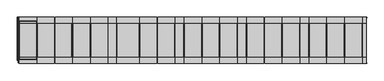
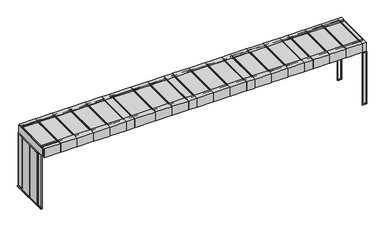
"""IFC4 building model written with IfcOpenShell, lengths in millimetres: proxy geometry, Hot_aisle1 : Hot_aisle1."""

from ifc_helpers import new_model, si_unit, frame, origin, place, context, project, spatial, polyline, outline, extrude, source, transform, mapped, element, save


def mechanical_equipment_dad1d5cb(model_context):
    return source(origin(), model_context, "Body", "SweptSolid", [
        extrude(outline(polyline([(6862.6371876, -467.8956882), (6744.3519296, -467.8956882), (6744.3519296, 791.2367945), (6862.6371876, 791.2367945), (6862.6371876, -467.8956882)])), frame((0.0, 0.0, 2329.0870533), z_axis=(0.0, 0.0, 1.0), x_axis=(1.0, 0.0, 0.0)), (0.0, 0.0, 1.0), 15.0),
        extrude(outline(polyline([(-513.1626828, 32.201371), (-306.2249589, 32.201371), (-306.2249589, 14.2941694), (631.7966527, 14.2941694), (631.7966527, 32.4107964), (942.151747, 32.4107964), (942.151747, 0.3306569), (-513.1626828, 0.3306569), (-513.1626828, 32.201371)])), frame((-4868.0857356, 0.0, 0.0), z_axis=(1.0, 0.0, 0.0), x_axis=(0.0, 1.0, 0.0)), (0.0, 0.0, 1.0), 64.5117599),
        extrude(outline(polyline([(-622.3826974, 2358.0870535), (-421.0012395, 2358.0870535), (-421.0012395, 2355.0870533), (-523.8309368, 2355.0870533), (-523.8309368, 2331.0870573), (-423.9920555, 2331.0870573), (-423.9920555, 2334.0870559), (-429.9736825, 2334.0870559), (-429.9736825, 2337.0870533), (-421.0012395, 2337.0870533), (-421.0012395, 2328.0870533), (-522.6589634, 2328.0870533), (-532.4432945, 2318.3027222), (-587.3826974, 2318.3027222), (-587.3826974, 2021.0610137), (-622.3826974, 2021.0610137), (-622.3826974, 2358.0870535)])), frame((-3603.5737426, 0.0, 0.0), z_axis=(1.0, 0.0, 0.0), x_axis=(0.0, 1.0, 0.0)), (0.0, 0.0, 1.0), 581.0683113),
        extrude(outline(polyline([(942.151747, 2358.0870535), (942.151747, 2021.0610137), (907.1517336, 2021.0610137), (907.1517336, 2318.3027222), (852.2123306, 2318.3027222), (842.4279996, 2328.0870533), (740.7702757, 2328.0870533), (740.7702757, 2337.0870533), (749.7427186, 2337.0870533), (749.7427186, 2334.0870559), (743.7610916, 2334.0870559), (743.7610916, 2331.0870573), (843.599973, 2331.0870573), (843.599973, 2355.0870533), (740.7702757, 2355.0870533), (740.7702757, 2358.0870535), (942.151747, 2358.0870535)])), frame((-3603.5737426, 0.0, 0.0), z_axis=(1.0, 0.0, 0.0), x_axis=(0.0, 1.0, 0.0)), (0.0, 0.0, 1.0), 581.0683113),
        extrude(outline(polyline([(-622.3826974, 2358.0870535), (-421.0012395, 2358.0870535), (-421.0012395, 2355.0870533), (-523.8309368, 2355.0870533), (-523.8309368, 2331.0870573), (-423.9920555, 2331.0870573), (-423.9920555, 2334.0870559), (-429.9736825, 2334.0870559), (-429.9736825, 2337.0870533), (-421.0012395, 2337.0870533), (-421.0012395, 2328.0870533), (-522.6589634, 2328.0870533), (-532.4432945, 2318.3027222), (-587.3826974, 2318.3027222), (-587.3826974, 2021.0610137), (-622.3826974, 2021.0610137), (-622.3826974, 2358.0870535)])), frame((-3003.5736713, 0.0, 0.0), z_axis=(1.0, 0.0, 0.0), x_axis=(0.0, 1.0, 0.0)), (0.0, 0.0, 1.0), 581.0683113),
        extrude(outline(polyline([(942.151747, 2358.0870535), (942.151747, 2021.0610137), (907.1517336, 2021.0610137), (907.1517336, 2318.3027222), (852.2123306, 2318.3027222), (842.4279996, 2328.0870533), (740.7702757, 2328.0870533), (740.7702757, 2337.0870533), (749.7427186, 2337.0870533), (749.7427186, 2334.0870559), (743.7610916, 2334.0870559), (743.7610916, 2331.0870573), (843.599973, 2331.0870573), (843.599973, 2355.0870533), (740.7702757, 2355.0870533), (740.7702757, 2358.0870535), (942.151747, 2358.0870535)])), frame((-3003.5736713, 0.0, 0.0), z_axis=(1.0, 0.0, 0.0), x_axis=(0.0, 1.0, 0.0)), (0.0, 0.0, 1.0), 581.0683113),
        extrude(outline(polyline([(-622.3826974, 2358.0870535), (-421.0012395, 2358.0870535), (-421.0012395, 2355.0870533), (-523.8309368, 2355.0870533), (-523.8309368, 2331.0870573), (-423.9920555, 2331.0870573), (-423.9920555, 2334.0870559), (-429.9736825, 2334.0870559), (-429.9736825, 2337.0870533), (-421.0012395, 2337.0870533), (-421.0012395, 2328.0870533), (-522.6589634, 2328.0870533), (-532.4432945, 2318.3027222), (-587.3826974, 2318.3027222), (-587.3826974, 2021.0610137), (-622.3826974, 2021.0610137), (-622.3826974, 2358.0870535)])), frame((-2403.5736667, 0.0, 0.0), z_axis=(1.0, 0.0, 0.0), x_axis=(0.0, 1.0, 0.0)), (0.0, 0.0, 1.0), 581.0683113),
        extrude(outline(polyline([(942.151747, 2358.0870535), (942.151747, 2021.0610137), (907.1517336, 2021.0610137), (907.1517336, 2318.3027222), (852.2123306, 2318.3027222), (842.4279996, 2328.0870533), (740.7702757, 2328.0870533), (740.7702757, 2337.0870533), (749.7427186, 2337.0870533), (749.7427186, 2334.0870559), (743.7610916, 2334.0870559), (743.7610916, 2331.0870573), (843.599973, 2331.0870573), (843.599973, 2355.0870533), (740.7702757, 2355.0870533), (740.7702757, 2358.0870535), (942.151747, 2358.0870535)])), frame((-2403.5736667, 0.0, 0.0), z_axis=(1.0, 0.0, 0.0), x_axis=(0.0, 1.0, 0.0)), (0.0, 0.0, 1.0), 581.0683113),
        extrude(outline(polyline([(-622.3826974, 2358.0870535), (-421.0012395, 2358.0870535), (-421.0012395, 2355.0870533), (-523.8309368, 2355.0870533), (-523.8309368, 2331.0870573), (-423.9920555, 2331.0870573), (-423.9920555, 2334.0870559), (-429.9736825, 2334.0870559), (-429.9736825, 2337.0870533), (-421.0012395, 2337.0870533), (-421.0012395, 2328.0870533), (-522.6589634, 2328.0870533), (-532.4432945, 2318.3027222), (-587.3826974, 2318.3027222), (-587.3826974, 2021.0610137), (-622.3826974, 2021.0610137), (-622.3826974, 2358.0870535)])), frame((-1520.5056136, 0.0, 0.0), z_axis=(1.0, 0.0, 0.0), x_axis=(0.0, 1.0, 0.0)), (0.0, 0.0, 1.0), 747.9999756),
        extrude(outline(polyline([(942.151747, 2358.0870535), (942.151747, 2021.0610137), (907.1517336, 2021.0610137), (907.1517336, 2318.3027222), (852.2123306, 2318.3027222), (842.4279996, 2328.0870533), (740.7702757, 2328.0870533), (740.7702757, 2337.0870533), (749.7427186, 2337.0870533), (749.7427186, 2334.0870559), (743.7610916, 2334.0870559), (743.7610916, 2331.0870573), (843.599973, 2331.0870573), (843.599973, 2355.0870533), (740.7702757, 2355.0870533), (740.7702757, 2358.0870535), (942.151747, 2358.0870535)])), frame((-1520.5056136, 0.0, 0.0), z_axis=(1.0, 0.0, 0.0), x_axis=(0.0, 1.0, 0.0)), (0.0, 0.0, 1.0), 747.9999756),
        extrude(outline(polyline([(-622.3826974, 2358.0870535), (-421.0012395, 2358.0870535), (-421.0012395, 2355.0870533), (-523.8309368, 2355.0870533), (-523.8309368, 2331.0870573), (-423.9920555, 2331.0870573), (-423.9920555, 2334.0870559), (-429.9736825, 2334.0870559), (-429.9736825, 2337.0870533), (-421.0012395, 2337.0870533), (-421.0012395, 2328.0870533), (-522.6589634, 2328.0870533), (-532.4432945, 2318.3027222), (-587.3826974, 2318.3027222), (-587.3826974, 2021.0610137), (-622.3826974, 2021.0610137), (-622.3826974, 2358.0870535)])), frame((-1820.5054775, 0.0, 0.0), z_axis=(1.0, 0.0, 0.0), x_axis=(0.0, 1.0, 0.0)), (0.0, 0.0, 1.0), 297.9998337),
        extrude(outline(polyline([(942.151747, 2358.0870535), (942.151747, 2021.0610137), (907.1517336, 2021.0610137), (907.1517336, 2318.3027222), (852.2123306, 2318.3027222), (842.4279996, 2328.0870533), (740.7702757, 2328.0870533), (740.7702757, 2337.0870533), (749.7427186, 2337.0870533), (749.7427186, 2334.0870559), (743.7610916, 2334.0870559), (743.7610916, 2331.0870573), (843.599973, 2331.0870573), (843.599973, 2355.0870533), (740.7702757, 2355.0870533), (740.7702757, 2358.0870535), (942.151747, 2358.0870535)])), frame((-1820.5054775, 0.0, 0.0), z_axis=(1.0, 0.0, 0.0), x_axis=(0.0, 1.0, 0.0)), (0.0, 0.0, 1.0), 297.9998337),
        extrude(outline(polyline([(-622.3826974, 2358.0870535), (-421.0012395, 2358.0870535), (-421.0012395, 2355.0870533), (-523.8309368, 2355.0870533), (-523.8309368, 2331.0870573), (-423.9920555, 2331.0870573), (-423.9920555, 2334.0870559), (-429.9736825, 2334.0870559), (-429.9736825, 2337.0870533), (-421.0012395, 2337.0870533), (-421.0012395, 2328.0870533), (-522.6589634, 2328.0870533), (-532.4432945, 2318.3027222), (-587.3826974, 2318.3027222), (-587.3826974, 2021.0610137), (-622.3826974, 2021.0610137), (-622.3826974, 2358.0870535)])), frame((-753.5737995, 0.0, 0.0), z_axis=(1.0, 0.0, 0.0), x_axis=(0.0, 1.0, 0.0)), (0.0, 0.0, 1.0), 581.0683113),
        extrude(outline(polyline([(942.151747, 2358.0870535), (942.151747, 2021.0610137), (907.1517336, 2021.0610137), (907.1517336, 2318.3027222), (852.2123306, 2318.3027222), (842.4279996, 2328.0870533), (740.7702757, 2328.0870533), (740.7702757, 2337.0870533), (749.7427186, 2337.0870533), (749.7427186, 2334.0870559), (743.7610916, 2334.0870559), (743.7610916, 2331.0870573), (843.599973, 2331.0870573), (843.599973, 2355.0870533), (740.7702757, 2355.0870533), (740.7702757, 2358.0870535), (942.151747, 2358.0870535)])), frame((-753.5737995, 0.0, 0.0), z_axis=(1.0, 0.0, 0.0), x_axis=(0.0, 1.0, 0.0)), (0.0, 0.0, 1.0), 581.0683113),
        extrude(outline(polyline([(-622.3826974, 2358.0870535), (-421.0012395, 2358.0870535), (-421.0012395, 2355.0870533), (-523.8309368, 2355.0870533), (-523.8309368, 2331.0870573), (-423.9920555, 2331.0870573), (-423.9920555, 2334.0870559), (-429.9736825, 2334.0870559), (-429.9736825, 2337.0870533), (-421.0012395, 2337.0870533), (-421.0012395, 2328.0870533), (-522.6589634, 2328.0870533), (-532.4432945, 2318.3027222), (-587.3826974, 2318.3027222), (-587.3826974, 2021.0610137), (-622.3826974, 2021.0610137), (-622.3826974, 2358.0870535)])), frame((-153.5737426, 0.0, 0.0), z_axis=(1.0, 0.0, 0.0), x_axis=(0.0, 1.0, 0.0)), (0.0, 0.0, 1.0), 581.0683113),
        extrude(outline(polyline([(942.151747, 2358.0870535), (942.151747, 2021.0610137), (907.1517336, 2021.0610137), (907.1517336, 2318.3027222), (852.2123306, 2318.3027222), (842.4279996, 2328.0870533), (740.7702757, 2328.0870533), (740.7702757, 2337.0870533), (749.7427186, 2337.0870533), (749.7427186, 2334.0870559), (743.7610916, 2334.0870559), (743.7610916, 2331.0870573), (843.599973, 2331.0870573), (843.599973, 2355.0870533), (740.7702757, 2355.0870533), (740.7702757, 2358.0870535), (942.151747, 2358.0870535)])), frame((-153.5737426, 0.0, 0.0), z_axis=(1.0, 0.0, 0.0), x_axis=(0.0, 1.0, 0.0)), (0.0, 0.0, 1.0), 581.0683113),
        extrude(outline(polyline([(-622.3826974, 2358.0870535), (-421.0012395, 2358.0870535), (-421.0012395, 2355.0870533), (-523.8309368, 2355.0870533), (-523.8309368, 2331.0870573), (-423.9920555, 2331.0870573), (-423.9920555, 2334.0870559), (-429.9736825, 2334.0870559), (-429.9736825, 2337.0870533), (-421.0012395, 2337.0870533), (-421.0012395, 2328.0870533), (-522.6589634, 2328.0870533), (-532.4432945, 2318.3027222), (-587.3826974, 2318.3027222), (-587.3826974, 2021.0610137), (-622.3826974, 2021.0610137), (-622.3826974, 2358.0870535)])), frame((429.4945225, 0.0, 0.0), z_axis=(1.0, 0.0, 0.0), x_axis=(0.0, 1.0, 0.0)), (0.0, 0.0, 1.0), 297.9998337),
        extrude(outline(polyline([(942.151747, 2358.0870535), (942.151747, 2021.0610137), (907.1517336, 2021.0610137), (907.1517336, 2318.3027222), (852.2123306, 2318.3027222), (842.4279996, 2328.0870533), (740.7702757, 2328.0870533), (740.7702757, 2337.0870533), (749.7427186, 2337.0870533), (749.7427186, 2334.0870559), (743.7610916, 2334.0870559), (743.7610916, 2331.0870573), (843.599973, 2331.0870573), (843.599973, 2355.0870533), (740.7702757, 2355.0870533), (740.7702757, 2358.0870535), (942.151747, 2358.0870535)])), frame((429.4945225, 0.0, 0.0), z_axis=(1.0, 0.0, 0.0), x_axis=(0.0, 1.0, 0.0)), (0.0, 0.0, 1.0), 297.9998337),
        extrude(outline(polyline([(-622.3826974, 2358.0870535), (-421.0012395, 2358.0870535), (-421.0012395, 2355.0870533), (-523.8309368, 2355.0870533), (-523.8309368, 2331.0870573), (-423.9920555, 2331.0870573), (-423.9920555, 2334.0870559), (-429.9736825, 2334.0870559), (-429.9736825, 2337.0870533), (-421.0012395, 2337.0870533), (-421.0012395, 2328.0870533), (-522.6589634, 2328.0870533), (-532.4432945, 2318.3027222), (-587.3826974, 2318.3027222), (-587.3826974, 2021.0610137), (-622.3826974, 2021.0610137), (-622.3826974, 2358.0870535)])), frame((746.4263333, 0.0, 0.0), z_axis=(1.0, 0.0, 0.0), x_axis=(0.0, 1.0, 0.0)), (0.0, 0.0, 1.0), 581.0683113),
        extrude(outline(polyline([(942.151747, 2358.0870535), (942.151747, 2021.0610137), (907.1517336, 2021.0610137), (907.1517336, 2318.3027222), (852.2123306, 2318.3027222), (842.4279996, 2328.0870533), (740.7702757, 2328.0870533), (740.7702757, 2337.0870533), (749.7427186, 2337.0870533), (749.7427186, 2334.0870559), (743.7610916, 2334.0870559), (743.7610916, 2331.0870573), (843.599973, 2331.0870573), (843.599973, 2355.0870533), (740.7702757, 2355.0870533), (740.7702757, 2358.0870535), (942.151747, 2358.0870535)])), frame((746.4263333, 0.0, 0.0), z_axis=(1.0, 0.0, 0.0), x_axis=(0.0, 1.0, 0.0)), (0.0, 0.0, 1.0), 581.0683113),
        extrude(outline(polyline([(-622.3826974, 2358.0870535), (-421.0012395, 2358.0870535), (-421.0012395, 2355.0870533), (-523.8309368, 2355.0870533), (-523.8309368, 2331.0870573), (-423.9920555, 2331.0870573), (-423.9920555, 2334.0870559), (-429.9736825, 2334.0870559), (-429.9736825, 2337.0870533), (-421.0012395, 2337.0870533), (-421.0012395, 2328.0870533), (-522.6589634, 2328.0870533), (-532.4432945, 2318.3027222), (-587.3826974, 2318.3027222), (-587.3826974, 2021.0610137), (-622.3826974, 2021.0610137), (-622.3826974, 2358.0870535)])), frame((1346.4263333, 0.0, 0.0), z_axis=(1.0, 0.0, 0.0), x_axis=(0.0, 1.0, 0.0)), (0.0, 0.0, 1.0), 581.0683113),
        extrude(outline(polyline([(942.151747, 2358.0870535), (942.151747, 2021.0610137), (907.1517336, 2021.0610137), (907.1517336, 2318.3027222), (852.2123306, 2318.3027222), (842.4279996, 2328.0870533), (740.7702757, 2328.0870533), (740.7702757, 2337.0870533), (749.7427186, 2337.0870533), (749.7427186, 2334.0870559), (743.7610916, 2334.0870559), (743.7610916, 2331.0870573), (843.599973, 2331.0870573), (843.599973, 2355.0870533), (740.7702757, 2355.0870533), (740.7702757, 2358.0870535), (942.151747, 2358.0870535)])), frame((1346.4263333, 0.0, 0.0), z_axis=(1.0, 0.0, 0.0), x_axis=(0.0, 1.0, 0.0)), (0.0, 0.0, 1.0), 581.0683113),
        extrude(outline(polyline([(-622.3826974, 2358.0870535), (-421.0012395, 2358.0870535), (-421.0012395, 2355.0870533), (-523.8309368, 2355.0870533), (-523.8309368, 2331.0870573), (-423.9920555, 2331.0870573), (-423.9920555, 2334.0870559), (-429.9736825, 2334.0870559), (-429.9736825, 2337.0870533), (-421.0012395, 2337.0870533), (-421.0012395, 2328.0870533), (-522.6589634, 2328.0870533), (-532.4432945, 2318.3027222), (-587.3826974, 2318.3027222), (-587.3826974, 2021.0610137), (-622.3826974, 2021.0610137), (-622.3826974, 2358.0870535)])), frame((1946.4263014, 0.0, 0.0), z_axis=(1.0, 0.0, 0.0), x_axis=(0.0, 1.0, 0.0)), (0.0, 0.0, 1.0), 581.0683113),
        extrude(outline(polyline([(942.151747, 2358.0870535), (942.151747, 2021.0610137), (907.1517336, 2021.0610137), (907.1517336, 2318.3027222), (852.2123306, 2318.3027222), (842.4279996, 2328.0870533), (740.7702757, 2328.0870533), (740.7702757, 2337.0870533), (749.7427186, 2337.0870533), (749.7427186, 2334.0870559), (743.7610916, 2334.0870559), (743.7610916, 2331.0870573), (843.599973, 2331.0870573), (843.599973, 2355.0870533), (740.7702757, 2355.0870533), (740.7702757, 2358.0870535), (942.151747, 2358.0870535)])), frame((1946.4263014, 0.0, 0.0), z_axis=(1.0, 0.0, 0.0), x_axis=(0.0, 1.0, 0.0)), (0.0, 0.0, 1.0), 581.0683113),
        extrude(outline(polyline([(-622.3826974, 2358.0870535), (-421.0012395, 2358.0870535), (-421.0012395, 2355.0870533), (-523.8309368, 2355.0870533), (-523.8309368, 2331.0870573), (-423.9920555, 2331.0870573), (-423.9920555, 2334.0870559), (-429.9736825, 2334.0870559), (-429.9736825, 2337.0870533), (-421.0012395, 2337.0870533), (-421.0012395, 2328.0870533), (-522.6589634, 2328.0870533), (-532.4432945, 2318.3027222), (-587.3826974, 2318.3027222), (-587.3826974, 2021.0610137), (-622.3826974, 2021.0610137), (-622.3826974, 2358.0870535)])), frame((2529.4945465, 0.0, 0.0), z_axis=(1.0, 0.0, 0.0), x_axis=(0.0, 1.0, 0.0)), (0.0, 0.0, 1.0), 297.9998337),
        extrude(outline(polyline([(942.151747, 2358.0870535), (942.151747, 2021.0610137), (907.1517336, 2021.0610137), (907.1517336, 2318.3027222), (852.2123306, 2318.3027222), (842.4279996, 2328.0870533), (740.7702757, 2328.0870533), (740.7702757, 2337.0870533), (749.7427186, 2337.0870533), (749.7427186, 2334.0870559), (743.7610916, 2334.0870559), (743.7610916, 2331.0870573), (843.599973, 2331.0870573), (843.599973, 2355.0870533), (740.7702757, 2355.0870533), (740.7702757, 2358.0870535), (942.151747, 2358.0870535)])), frame((2529.4945465, 0.0, 0.0), z_axis=(1.0, 0.0, 0.0), x_axis=(0.0, 1.0, 0.0)), (0.0, 0.0, 1.0), 297.9998337),
        extrude(outline(polyline([(-622.3826974, 2358.0870535), (-421.0012395, 2358.0870535), (-421.0012395, 2355.0870533), (-523.8309368, 2355.0870533), (-523.8309368, 2331.0870573), (-423.9920555, 2331.0870573), (-423.9920555, 2334.0870559), (-429.9736825, 2334.0870559), (-429.9736825, 2337.0870533), (-421.0012395, 2337.0870533), (-421.0012395, 2328.0870533), (-522.6589634, 2328.0870533), (-532.4432945, 2318.3027222), (-587.3826974, 2318.3027222), (-587.3826974, 2021.0610137), (-622.3826974, 2021.0610137), (-622.3826974, 2358.0870535)])), frame((2846.4262721, 0.0, 0.0), z_axis=(1.0, 0.0, 0.0), x_axis=(0.0, 1.0, 0.0)), (0.0, 0.0, 1.0), 581.0683113),
        extrude(outline(polyline([(942.151747, 2358.0870535), (942.151747, 2021.0610137), (907.1517336, 2021.0610137), (907.1517336, 2318.3027222), (852.2123306, 2318.3027222), (842.4279996, 2328.0870533), (740.7702757, 2328.0870533), (740.7702757, 2337.0870533), (749.7427186, 2337.0870533), (749.7427186, 2334.0870559), (743.7610916, 2334.0870559), (743.7610916, 2331.0870573), (843.599973, 2331.0870573), (843.599973, 2355.0870533), (740.7702757, 2355.0870533), (740.7702757, 2358.0870535), (942.151747, 2358.0870535)])), frame((2846.4262721, 0.0, 0.0), z_axis=(1.0, 0.0, 0.0), x_axis=(0.0, 1.0, 0.0)), (0.0, 0.0, 1.0), 581.0683113),
        extrude(outline(polyline([(-622.3826974, 2358.0870535), (-421.0012395, 2358.0870535), (-421.0012395, 2355.0870533), (-523.8309368, 2355.0870533), (-523.8309368, 2331.0870573), (-423.9920555, 2331.0870573), (-423.9920555, 2334.0870559), (-429.9736825, 2334.0870559), (-429.9736825, 2337.0870533), (-421.0012395, 2337.0870533), (-421.0012395, 2328.0870533), (-522.6589634, 2328.0870533), (-532.4432945, 2318.3027222), (-587.3826974, 2318.3027222), (-587.3826974, 2021.0610137), (-622.3826974, 2021.0610137), (-622.3826974, 2358.0870535)])), frame((-4203.5736804, 0.0, 0.0), z_axis=(1.0, 0.0, 0.0), x_axis=(0.0, 1.0, 0.0)), (0.0, 0.0, 1.0), 581.0683113),
        extrude(outline(polyline([(942.151747, 2358.0870535), (942.151747, 2021.0610137), (907.1517336, 2021.0610137), (907.1517336, 2318.3027222), (852.2123306, 2318.3027222), (842.4279996, 2328.0870533), (740.7702757, 2328.0870533), (740.7702757, 2337.0870533), (749.7427186, 2337.0870533), (749.7427186, 2334.0870559), (743.7610916, 2334.0870559), (743.7610916, 2331.0870573), (843.599973, 2331.0870573), (843.599973, 2355.0870533), (740.7702757, 2355.0870533), (740.7702757, 2358.0870535), (942.151747, 2358.0870535)])), frame((-4203.5736804, 0.0, 0.0), z_axis=(1.0, 0.0, 0.0), x_axis=(0.0, 1.0, 0.0)), (0.0, 0.0, 1.0), 581.0683113),
        extrude(outline(polyline([(-622.3826974, 2358.0870535), (-421.0012395, 2358.0870535), (-421.0012395, 2355.0870533), (-523.8309368, 2355.0870533), (-523.8309368, 2331.0870573), (-423.9920555, 2331.0870573), (-423.9920555, 2334.0870559), (-429.9736825, 2334.0870559), (-429.9736825, 2337.0870533), (-421.0012395, 2337.0870533), (-421.0012395, 2328.0870533), (-522.6589634, 2328.0870533), (-532.4432945, 2318.3027222), (-587.3826974, 2318.3027222), (-587.3826974, 2021.0610137), (-622.3826974, 2021.0610137), (-622.3826974, 2358.0870535)])), frame((3446.4263014, 0.0, 0.0), z_axis=(1.0, 0.0, 0.0), x_axis=(0.0, 1.0, 0.0)), (0.0, 0.0, 1.0), 581.0683113),
        extrude(outline(polyline([(942.151747, 2358.0870535), (942.151747, 2021.0610137), (907.1517336, 2021.0610137), (907.1517336, 2318.3027222), (852.2123306, 2318.3027222), (842.4279996, 2328.0870533), (740.7702757, 2328.0870533), (740.7702757, 2337.0870533), (749.7427186, 2337.0870533), (749.7427186, 2334.0870559), (743.7610916, 2334.0870559), (743.7610916, 2331.0870573), (843.599973, 2331.0870573), (843.599973, 2355.0870533), (740.7702757, 2355.0870533), (740.7702757, 2358.0870535), (942.151747, 2358.0870535)])), frame((3446.4263014, 0.0, 0.0), z_axis=(1.0, 0.0, 0.0), x_axis=(0.0, 1.0, 0.0)), (0.0, 0.0, 1.0), 581.0683113),
        extrude(outline(polyline([(-622.3826974, 2358.0870535), (-421.0012395, 2358.0870535), (-421.0012395, 2355.0870533), (-523.8309368, 2355.0870533), (-523.8309368, 2331.0870573), (-423.9920555, 2331.0870573), (-423.9920555, 2334.0870559), (-429.9736825, 2334.0870559), (-429.9736825, 2337.0870533), (-421.0012395, 2337.0870533), (-421.0012395, 2328.0870533), (-522.6589634, 2328.0870533), (-532.4432945, 2318.3027222), (-587.3826974, 2318.3027222), (-587.3826974, 2021.0610137), (-622.3826974, 2021.0610137), (-622.3826974, 2358.0870535)])), frame((4046.4263262, 0.0, 0.0), z_axis=(1.0, 0.0, 0.0), x_axis=(0.0, 1.0, 0.0)), (0.0, 0.0, 1.0), 581.0683113),
        extrude(outline(polyline([(942.151747, 2358.0870535), (942.151747, 2021.0610137), (907.1517336, 2021.0610137), (907.1517336, 2318.3027222), (852.2123306, 2318.3027222), (842.4279996, 2328.0870533), (740.7702757, 2328.0870533), (740.7702757, 2337.0870533), (749.7427186, 2337.0870533), (749.7427186, 2334.0870559), (743.7610916, 2334.0870559), (743.7610916, 2331.0870573), (843.599973, 2331.0870573), (843.599973, 2355.0870533), (740.7702757, 2355.0870533), (740.7702757, 2358.0870535), (942.151747, 2358.0870535)])), frame((4046.4263262, 0.0, 0.0), z_axis=(1.0, 0.0, 0.0), x_axis=(0.0, 1.0, 0.0)), (0.0, 0.0, 1.0), 581.0683113),
        extrude(outline(polyline([(-622.3826974, 2358.0870535), (-421.0012395, 2358.0870535), (-421.0012395, 2355.0870533), (-523.8309368, 2355.0870533), (-523.8309368, 2331.0870573), (-423.9920555, 2331.0870573), (-423.9920555, 2334.0870559), (-429.9736825, 2334.0870559), (-429.9736825, 2337.0870533), (-421.0012395, 2337.0870533), (-421.0012395, 2328.0870533), (-522.6589634, 2328.0870533), (-532.4432945, 2318.3027222), (-587.3826974, 2318.3027222), (-587.3826974, 2021.0610137), (-622.3826974, 2021.0610137), (-622.3826974, 2358.0870535)])), frame((4946.4262587, 0.0, 0.0), z_axis=(1.0, 0.0, 0.0), x_axis=(0.0, 1.0, 0.0)), (0.0, 0.0, 1.0), 581.0683113),
        extrude(outline(polyline([(942.151747, 2358.0870535), (942.151747, 2021.0610137), (907.1517336, 2021.0610137), (907.1517336, 2318.3027222), (852.2123306, 2318.3027222), (842.4279996, 2328.0870533), (740.7702757, 2328.0870533), (740.7702757, 2337.0870533), (749.7427186, 2337.0870533), (749.7427186, 2334.0870559), (743.7610916, 2334.0870559), (743.7610916, 2331.0870573), (843.599973, 2331.0870573), (843.599973, 2355.0870533), (740.7702757, 2355.0870533), (740.7702757, 2358.0870535), (942.151747, 2358.0870535)])), frame((4946.4262587, 0.0, 0.0), z_axis=(1.0, 0.0, 0.0), x_axis=(0.0, 1.0, 0.0)), (0.0, 0.0, 1.0), 581.0683113),
        extrude(outline(polyline([(-622.3826974, 2358.0870535), (-421.0012395, 2358.0870535), (-421.0012395, 2355.0870533), (-523.8309368, 2355.0870533), (-523.8309368, 2331.0870573), (-423.9920555, 2331.0870573), (-423.9920555, 2334.0870559), (-429.9736825, 2334.0870559), (-429.9736825, 2337.0870533), (-421.0012395, 2337.0870533), (-421.0012395, 2328.0870533), (-522.6589634, 2328.0870533), (-532.4432945, 2318.3027222), (-587.3826974, 2318.3027222), (-587.3826974, 2021.0610137), (-622.3826974, 2021.0610137), (-622.3826974, 2358.0870535)])), frame((4629.4945626, 0.0, 0.0), z_axis=(1.0, 0.0, 0.0), x_axis=(0.0, 1.0, 0.0)), (0.0, 0.0, 1.0), 297.9998337),
        extrude(outline(polyline([(942.151747, 2358.0870535), (942.151747, 2021.0610137), (907.1517336, 2021.0610137), (907.1517336, 2318.3027222), (852.2123306, 2318.3027222), (842.4279996, 2328.0870533), (740.7702757, 2328.0870533), (740.7702757, 2337.0870533), (749.7427186, 2337.0870533), (749.7427186, 2334.0870559), (743.7610916, 2334.0870559), (743.7610916, 2331.0870573), (843.599973, 2331.0870573), (843.599973, 2355.0870533), (740.7702757, 2355.0870533), (740.7702757, 2358.0870535), (942.151747, 2358.0870535)])), frame((4629.4945626, 0.0, 0.0), z_axis=(1.0, 0.0, 0.0), x_axis=(0.0, 1.0, 0.0)), (0.0, 0.0, 1.0), 297.9998337),
        extrude(outline(polyline([(4912.6373089, -467.8956882), (4644.3519296, -467.8956882), (4644.3519296, 791.2367945), (4912.6373089, 791.2367945), (4912.6373089, -467.8956882)])), frame((0.0, 0.0, 2329.0870533), z_axis=(0.0, 0.0, 1.0), x_axis=(1.0, 0.0, 0.0)), (0.0, 0.0, 1.0), 15.0),
        extrude(outline(polyline([(2812.6372929, -467.8956882), (2544.3519135, -467.8956882), (2544.3519135, 791.2367945), (2812.6372929, 791.2367945), (2812.6372929, -467.8956882)])), frame((0.0, 0.0, 2329.0870533), z_axis=(0.0, 0.0, 1.0), x_axis=(1.0, 0.0, 0.0)), (0.0, 0.0, 1.0), 15.0),
        extrude(outline(polyline([(712.6372689, -467.8956882), (444.3518895, -467.8956882), (444.3518895, 791.2367945), (712.6372689, 791.2367945), (712.6372689, -467.8956882)])), frame((0.0, 0.0, 2329.0870533), z_axis=(0.0, 0.0, 1.0), x_axis=(1.0, 0.0, 0.0)), (0.0, 0.0, 1.0), 15.0),
        extrude(outline(polyline([(-1537.3627311, -467.8956882), (-1805.6481105, -467.8956882), (-1805.6481105, 791.2367945), (-1537.3627311, 791.2367945), (-1537.3627311, -467.8956882)])), frame((0.0, 0.0, 2329.0870533), z_axis=(0.0, 0.0, 1.0), x_axis=(1.0, 0.0, 0.0)), (0.0, 0.0, 1.0), 15.0),
        extrude(outline(polyline([(-787.3627254, -467.8956882), (-1505.6482466, -467.8956882), (-1505.6482466, 791.2367945), (-787.3627254, 791.2367945), (-787.3627254, -467.8956882)])), frame((0.0, 0.0, 2329.0870533), z_axis=(0.0, 0.0, 1.0), x_axis=(1.0, 0.0, 0.0)), (0.0, 0.0, 1.0), 15.0),
        extrude(outline(polyline([(6712.6376326, -467.8956882), (6161.2836303, -467.8956882), (6161.2836303, 791.2367945), (6712.6376326, 791.2367945), (6712.6376326, -467.8956882)])), frame((0.0, 0.0, 2329.0870533), z_axis=(0.0, 0.0, 1.0), x_axis=(1.0, 0.0, 0.0)), (0.0, 0.0, 1.0), 15.0),
        extrude(outline(polyline([(6112.6376326, -467.8956882), (5561.2836303, -467.8956882), (5561.2836303, 791.2367945), (6112.6376326, 791.2367945), (6112.6376326, -467.8956882)])), frame((0.0, 0.0, 2329.0870533), z_axis=(0.0, 0.0, 1.0), x_axis=(1.0, 0.0, 0.0)), (0.0, 0.0, 1.0), 15.0),
        extrude(outline(polyline([(5512.637628, -467.8956882), (4961.2836257, -467.8956882), (4961.2836257, 791.2367945), (5512.637628, 791.2367945), (5512.637628, -467.8956882)])), frame((0.0, 0.0, 2329.0870533), z_axis=(0.0, 0.0, 1.0), x_axis=(1.0, 0.0, 0.0)), (0.0, 0.0, 1.0), 15.0),
        extrude(outline(polyline([(4612.6376956, -467.8956882), (4061.2836932, -467.8956882), (4061.2836932, 791.2367945), (4612.6376956, 791.2367945), (4612.6376956, -467.8956882)])), frame((0.0, 0.0, 2329.0870533), z_axis=(0.0, 0.0, 1.0), x_axis=(1.0, 0.0, 0.0)), (0.0, 0.0, 1.0), 15.0),
        extrude(outline(polyline([(4012.6376708, -467.8956882), (3461.2836684, -467.8956882), (3461.2836684, 791.2367945), (4012.6376708, 791.2367945), (4012.6376708, -467.8956882)])), frame((0.0, 0.0, 2329.0870533), z_axis=(0.0, 0.0, 1.0), x_axis=(1.0, 0.0, 0.0)), (0.0, 0.0, 1.0), 15.0),
        extrude(outline(polyline([(3412.6376414, -467.8956882), (2861.2836391, -467.8956882), (2861.2836391, 791.2367945), (3412.6376414, 791.2367945), (3412.6376414, -467.8956882)])), frame((0.0, 0.0, 2329.0870533), z_axis=(0.0, 0.0, 1.0), x_axis=(1.0, 0.0, 0.0)), (0.0, 0.0, 1.0), 15.0),
        extrude(outline(polyline([(2512.6376708, -467.8956882), (1961.2836684, -467.8956882), (1961.2836684, 791.2367945), (2512.6376708, 791.2367945), (2512.6376708, -467.8956882)])), frame((0.0, 0.0, 2329.0870533), z_axis=(0.0, 0.0, 1.0), x_axis=(1.0, 0.0, 0.0)), (0.0, 0.0, 1.0), 15.0),
        extrude(outline(polyline([(1912.6377026, -467.8956882), (1361.2837003, -467.8956882), (1361.2837003, 791.2367945), (1912.6377026, 791.2367945), (1912.6377026, -467.8956882)])), frame((0.0, 0.0, 2329.0870533), z_axis=(0.0, 0.0, 1.0), x_axis=(1.0, 0.0, 0.0)), (0.0, 0.0, 1.0), 15.0),
        extrude(outline(polyline([(1312.6377026, -467.8956882), (761.2837003, -467.8956882), (761.2837003, 791.2367945), (1312.6377026, 791.2367945), (1312.6377026, -467.8956882)])), frame((0.0, 0.0, 2329.0870533), z_axis=(0.0, 0.0, 1.0), x_axis=(1.0, 0.0, 0.0)), (0.0, 0.0, 1.0), 15.0),
        extrude(outline(polyline([(412.6376267, -467.8956882), (-138.7162793, -467.8956882), (-138.7162793, 791.2367945), (412.6376267, 791.2367945), (412.6376267, -467.8956882)])), frame((0.0, 0.0, 2329.0870533), z_axis=(0.0, 0.0, 1.0), x_axis=(1.0, 0.0, 0.0)), (0.0, 0.0, 1.0), 15.0),
        extrude(outline(polyline([(-187.3624301, -467.8956882), (-738.7164325, -467.8956882), (-738.7164325, 791.2367945), (-187.3624301, 791.2367945), (-187.3624301, -467.8956882)])), frame((0.0, 0.0, 2329.0870533), z_axis=(0.0, 0.0, 1.0), x_axis=(1.0, 0.0, 0.0)), (0.0, 0.0, 1.0), 15.0),
        extrude(outline(polyline([(-1837.3622974, -467.8956882), (-2388.7162997, -467.8956882), (-2388.7162997, 791.2367945), (-1837.3622974, 791.2367945), (-1837.3622974, -467.8956882)])), frame((0.0, 0.0, 2329.0870533), z_axis=(0.0, 0.0, 1.0), x_axis=(1.0, 0.0, 0.0)), (0.0, 0.0, 1.0), 15.0),
        extrude(outline(polyline([(-2437.362302, -467.8956882), (-3037.3623733, -467.8956882), (-3037.3623733, 791.2367945), (-2437.362302, 791.2367945), (-2437.362302, -467.8956882)])), frame((0.0, 0.0, 2329.0870533), z_axis=(0.0, 0.0, 1.0), x_axis=(1.0, 0.0, 0.0)), (0.0, 0.0, 1.0), 15.0),
        extrude(outline(polyline([(-3037.3623733, -467.8956882), (-3588.7163756, -467.8956882), (-3588.7163756, 791.2367945), (-3037.3623733, 791.2367945), (-3037.3623733, -467.8956882)])), frame((0.0, 0.0, 2329.0870533), z_axis=(0.0, 0.0, 1.0), x_axis=(1.0, 0.0, 0.0)), (0.0, 0.0, 1.0), 15.0),
        extrude(outline(polyline([(-3637.3623111, -467.8956882), (-4188.7163135, -467.8956882), (-4188.7163135, 791.2367945), (-3637.3623111, 791.2367945), (-3637.3623111, -467.8956882)])), frame((0.0, 0.0, 2329.0870533), z_axis=(0.0, 0.0, 1.0), x_axis=(1.0, 0.0, 0.0)), (0.0, 0.0, 1.0), 15.0),
        extrude(outline(polyline([(-622.3826974, 2358.0870535), (-421.0012395, 2358.0870535), (-421.0012395, 2355.0870533), (-523.8309368, 2355.0870533), (-523.8309368, 2331.0870573), (-423.9920555, 2331.0870573), (-423.9920555, 2334.0870559), (-429.9736825, 2334.0870559), (-429.9736825, 2337.0870533), (-421.0012395, 2337.0870533), (-421.0012395, 2328.0870533), (-522.6589634, 2328.0870533), (-532.4432945, 2318.3027222), (-587.3826974, 2318.3027222), (-587.3826974, 2021.0610137), (-622.3826974, 2021.0610137), (-622.3826974, 2358.0870535)])), frame((5546.4262633, 0.0, 0.0), z_axis=(1.0, 0.0, 0.0), x_axis=(0.0, 1.0, 0.0)), (0.0, 0.0, 1.0), 581.0683113),
        extrude(outline(polyline([(942.151747, 2358.0870535), (942.151747, 2021.0610137), (907.1517336, 2021.0610137), (907.1517336, 2318.3027222), (852.2123306, 2318.3027222), (842.4279996, 2328.0870533), (740.7702757, 2328.0870533), (740.7702757, 2337.0870533), (749.7427186, 2337.0870533), (749.7427186, 2334.0870559), (743.7610916, 2334.0870559), (743.7610916, 2331.0870573), (843.599973, 2331.0870573), (843.599973, 2355.0870533), (740.7702757, 2355.0870533), (740.7702757, 2358.0870535), (942.151747, 2358.0870535)])), frame((5546.4262633, 0.0, 0.0), z_axis=(1.0, 0.0, 0.0), x_axis=(0.0, 1.0, 0.0)), (0.0, 0.0, 1.0), 581.0683113),
        extrude(outline(polyline([(-622.3826974, 2358.0870535), (-421.0012395, 2358.0870535), (-421.0012395, 2355.0870533), (-523.8309368, 2355.0870533), (-523.8309368, 2331.0870573), (-423.9920555, 2331.0870573), (-423.9920555, 2334.0870559), (-429.9736825, 2334.0870559), (-429.9736825, 2337.0870533), (-421.0012395, 2337.0870533), (-421.0012395, 2328.0870533), (-522.6589634, 2328.0870533), (-532.4432945, 2318.3027222), (-587.3826974, 2318.3027222), (-587.3826974, 2021.0610137), (-622.3826974, 2021.0610137), (-622.3826974, 2358.0870535)])), frame((6144.3513798, 0.0, 0.0), z_axis=(1.0, 0.0, 0.0), x_axis=(0.0, 1.0, 0.0)), (0.0, 0.0, 1.0), 583.142894),
        extrude(outline(polyline([(942.1517336, 2358.0870535), (942.1517336, 2021.0610137), (907.1517336, 2021.0610137), (907.1517336, 2318.3027222), (852.2123306, 2318.3027222), (842.4279996, 2328.0870533), (740.7702757, 2328.0870533), (740.7702757, 2337.0870533), (749.7427186, 2337.0870533), (749.7427186, 2334.0870559), (743.7610916, 2334.0870559), (743.7610916, 2331.0870573), (843.599973, 2331.0870573), (843.599973, 2355.0870533), (740.7702757, 2355.0870533), (740.7702757, 2358.0870535), (942.1517336, 2358.0870535)])), frame((6146.4262532, 0.0, 0.0), z_axis=(1.0, 0.0, 0.0), x_axis=(0.0, 1.0, 0.0)), (0.0, 0.0, 1.0), 581.0680206),
        extrude(outline(polyline([(-622.3826974, 2358.0870535), (-421.0012395, 2358.0870535), (-421.0012395, 2355.0870533), (-523.8309368, 2355.0870533), (-523.8309368, 2331.0870573), (-423.9920555, 2331.0870573), (-423.9920555, 2334.0870559), (-429.9736825, 2334.0870559), (-429.9736825, 2337.0870533), (-421.0012395, 2337.0870533), (-421.0012395, 2328.0870533), (-522.6589634, 2328.0870533), (-532.4432945, 2318.3027222), (-587.3826974, 2318.3027222), (-587.3826974, 2021.0610137), (-622.3826974, 2021.0610137), (-622.3826974, 2358.0870535)])), frame((6729.4945626, 0.0, 0.0), z_axis=(1.0, 0.0, 0.0), x_axis=(0.0, 1.0, 0.0)), (0.0, 0.0, 1.0), 147.9998577),
        extrude(outline(polyline([(942.151747, 2358.0870535), (942.151747, 2021.0610137), (907.151747, 2021.0610137), (907.151747, 2318.3027222), (852.2123441, 2318.3027222), (842.428013, 2328.0870533), (740.7702891, 2328.0870533), (740.7702891, 2337.0870533), (749.7427321, 2337.0870533), (749.7427321, 2334.0870559), (743.7611051, 2334.0870559), (743.7611051, 2331.0870573), (843.5999864, 2331.0870573), (843.5999864, 2355.0870533), (740.7702891, 2355.0870533), (740.7702891, 2358.0870535), (942.151747, 2358.0870535)])), frame((6729.4945626, 0.0, 0.0), z_axis=(1.0, 0.0, 0.0), x_axis=(0.0, 1.0, 0.0)), (0.0, 0.0, 1.0), 147.9998577),
        extrude(outline(polyline([(6877.4944203, 811.1755429), (6877.4944203, -487.8344421), (6729.4945626, -487.8344421), (6729.4945626, 811.1755429), (6877.4944203, 811.1755429)]), holes=[polyline([(6862.6371876, 791.2367863), (6744.3519296, 791.2367863), (6744.3519296, -467.8956882), (6862.6371876, -467.8956882), (6862.6371876, 791.2367863)])]), frame((0.0, 0.0, 2312.1870572), z_axis=(0.0, 0.0, 1.0), x_axis=(1.0, 0.0, 0.0)), (0.0, 0.0, 1.0), 45.8999963),
        extrude(outline(polyline([(6727.4945746, 811.1755429), (6727.4945746, -487.8344421), (6146.4262633, -487.8344421), (6146.4262633, 811.1755429), (6727.4945746, 811.1755429)]), holes=[polyline([(6712.6376326, 791.2367863), (6161.2836303, 791.2367863), (6161.2836303, -467.8956882), (6712.6376326, -467.8956882), (6712.6376326, 791.2367863)])]), frame((0.0, 0.0, 2312.1870572), z_axis=(0.0, 0.0, 1.0), x_axis=(1.0, 0.0, 0.0)), (0.0, 0.0, 1.0), 45.8999963),
        extrude(outline(polyline([(6127.4945746, 811.1755429), (6127.4945746, -487.8344421), (5546.4262633, -487.8344421), (5546.4262633, 811.1755429), (6127.4945746, 811.1755429)]), holes=[polyline([(6112.6376326, 791.2367863), (5561.2836303, 791.2367863), (5561.2836303, -467.8956882), (6112.6376326, -467.8956882), (6112.6376326, 791.2367863)])]), frame((0.0, 0.0, 2312.1870572), z_axis=(0.0, 0.0, 1.0), x_axis=(1.0, 0.0, 0.0)), (0.0, 0.0, 1.0), 45.8999963),
        extrude(outline(polyline([(5527.49457, 811.1755429), (5527.49457, -487.8344421), (4946.4262587, -487.8344421), (4946.4262587, 811.1755429), (5527.49457, 811.1755429)]), holes=[polyline([(5512.637628, 791.2367863), (4961.2836257, 791.2367863), (4961.2836257, -467.8956882), (5512.637628, -467.8956882), (5512.637628, 791.2367863)])]), frame((0.0, 0.0, 2312.1870572), z_axis=(0.0, 0.0, 1.0), x_axis=(1.0, 0.0, 0.0)), (0.0, 0.0, 1.0), 45.8999963),
        extrude(outline(polyline([(4927.4943962, 811.1755429), (4927.4943962, -487.8344421), (4629.4945626, -487.8344421), (4629.4945626, 811.1755429), (4927.4943962, 811.1755429)]), holes=[polyline([(4912.6373089, 791.2367863), (4644.3519296, 791.2367863), (4644.3519296, -467.8956882), (4912.6373089, -467.8956882), (4912.6373089, 791.2367863)])]), frame((0.0, 0.0, 2312.1870572), z_axis=(0.0, 0.0, 1.0), x_axis=(1.0, 0.0, 0.0)), (0.0, 0.0, 1.0), 45.8999963),
        extrude(outline(polyline([(4627.4946375, 811.1755429), (4627.4946375, -487.8344421), (4046.4263262, -487.8344421), (4046.4263262, 811.1755429), (4627.4946375, 811.1755429)]), holes=[polyline([(4612.6376956, 791.2367863), (4061.2836932, 791.2367863), (4061.2836932, -467.8956882), (4612.6376956, -467.8956882), (4612.6376956, 791.2367863)])]), frame((0.0, 0.0, 2312.1870572), z_axis=(0.0, 0.0, 1.0), x_axis=(1.0, 0.0, 0.0)), (0.0, 0.0, 1.0), 45.8999963),
        extrude(outline(polyline([(4027.4946127, 811.1755429), (4027.4946127, -487.8344421), (3446.4263014, -487.8344421), (3446.4263014, 811.1755429), (4027.4946127, 811.1755429)]), holes=[polyline([(4012.6376708, 791.2367863), (3461.2836684, 791.2367863), (3461.2836684, -467.8956882), (4012.6376708, -467.8956882), (4012.6376708, 791.2367863)])]), frame((0.0, 0.0, 2312.1870572), z_axis=(0.0, 0.0, 1.0), x_axis=(1.0, 0.0, 0.0)), (0.0, 0.0, 1.0), 45.8999963),
        extrude(outline(polyline([(3427.4945834, 811.1755429), (3427.4945834, -487.8344421), (2846.4262721, -487.8344421), (2846.4262721, 811.1755429), (3427.4945834, 811.1755429)]), holes=[polyline([(3412.6376414, 791.2367863), (2861.2836391, 791.2367863), (2861.2836391, -467.8956882), (3412.6376414, -467.8956882), (3412.6376414, 791.2367863)])]), frame((0.0, 0.0, 2312.1870572), z_axis=(0.0, 0.0, 1.0), x_axis=(1.0, 0.0, 0.0)), (0.0, 0.0, 1.0), 45.8999963),
        extrude(outline(polyline([(2827.4943802, 811.1755429), (2827.4943802, -487.8344421), (2529.4945465, -487.8344421), (2529.4945465, 811.1755429), (2827.4943802, 811.1755429)]), holes=[polyline([(2812.6372929, 791.2367863), (2544.3519135, 791.2367863), (2544.3519135, -467.8956882), (2812.6372929, -467.8956882), (2812.6372929, 791.2367863)])]), frame((0.0, 0.0, 2312.1870572), z_axis=(0.0, 0.0, 1.0), x_axis=(1.0, 0.0, 0.0)), (0.0, 0.0, 1.0), 45.8999963),
        extrude(outline(polyline([(2527.4946127, 811.1755429), (2527.4946127, -487.8344421), (1946.4263014, -487.8344421), (1946.4263014, 811.1755429), (2527.4946127, 811.1755429)]), holes=[polyline([(2512.6376708, 791.2367863), (1961.2836684, 791.2367863), (1961.2836684, -467.8956882), (2512.6376708, -467.8956882), (2512.6376708, 791.2367863)])]), frame((0.0, 0.0, 2312.1870572), z_axis=(0.0, 0.0, 1.0), x_axis=(1.0, 0.0, 0.0)), (0.0, 0.0, 1.0), 45.8999963),
        extrude(outline(polyline([(1927.4946446, 811.1755429), (1927.4946446, -487.8344421), (1346.4263333, -487.8344421), (1346.4263333, 811.1755429), (1927.4946446, 811.1755429)]), holes=[polyline([(1912.6377026, 791.2367863), (1361.2837003, 791.2367863), (1361.2837003, -467.8956882), (1912.6377026, -467.8956882), (1912.6377026, 791.2367863)])]), frame((0.0, 0.0, 2312.1870572), z_axis=(0.0, 0.0, 1.0), x_axis=(1.0, 0.0, 0.0)), (0.0, 0.0, 1.0), 45.8999963),
        extrude(outline(polyline([(1327.4946446, 811.1755429), (1327.4946446, -487.8344421), (746.4263333, -487.8344421), (746.4263333, 811.1755429), (1327.4946446, 811.1755429)]), holes=[polyline([(1312.6377026, 791.2367863), (761.2837003, 791.2367863), (761.2837003, -467.8956882), (1312.6377026, -467.8956882), (1312.6377026, 791.2367863)])]), frame((0.0, 0.0, 2312.1870572), z_axis=(0.0, 0.0, 1.0), x_axis=(1.0, 0.0, 0.0)), (0.0, 0.0, 1.0), 45.8999963),
        extrude(outline(polyline([(727.4943562, 811.1755429), (727.4943562, -487.8344421), (429.4945225, -487.8344421), (429.4945225, 811.1755429), (727.4943562, 811.1755429)]), holes=[polyline([(712.6372689, 791.2367863), (444.3518895, 791.2367863), (444.3518895, -467.8956882), (712.6372689, -467.8956882), (712.6372689, 791.2367863)])]), frame((0.0, 0.0, 2312.1870572), z_axis=(0.0, 0.0, 1.0), x_axis=(1.0, 0.0, 0.0)), (0.0, 0.0, 1.0), 45.8999963),
        extrude(outline(polyline([(427.494665, 811.1755429), (427.494665, -487.8344421), (-153.5736463, -487.8344421), (-153.5736463, 811.1755429), (427.494665, 811.1755429)]), holes=[polyline([(412.637723, 791.2367863), (-138.7162793, 791.2367863), (-138.7162793, -467.8956882), (412.637723, -467.8956882), (412.637723, 791.2367863)])]), frame((0.0, 0.0, 2312.1870572), z_axis=(0.0, 0.0, 1.0), x_axis=(1.0, 0.0, 0.0)), (0.0, 0.0, 1.0), 45.8999963),
        extrude(outline(polyline([(-172.5053554, 811.1755429), (-172.5053554, -487.8344421), (-753.5736667, -487.8344421), (-753.5736667, 811.1755429), (-172.5053554, 811.1755429)]), holes=[polyline([(-187.3622974, 791.2367863), (-738.7162997, 791.2367863), (-738.7162997, -467.8956882), (-187.3622974, -467.8956882), (-187.3622974, 791.2367863)])]), frame((0.0, 0.0, 2312.1870572), z_axis=(0.0, 0.0, 1.0), x_axis=(1.0, 0.0, 0.0)), (0.0, 0.0, 1.0), 45.8999963),
        extrude(outline(polyline([(727.4943562, 811.1755429), (727.4943562, -487.8344421), (429.4945225, -487.8344421), (429.4945225, 811.1755429), (727.4943562, 811.1755429)]), holes=[polyline([(712.6372689, 791.2367863), (444.3518895, 791.2367863), (444.3518895, -467.8956882), (712.6372689, -467.8956882), (712.6372689, 791.2367863)])]), frame((0.0, 0.0, 2312.1870572), z_axis=(0.0, 0.0, 1.0), x_axis=(1.0, 0.0, 0.0)), (0.0, 0.0, 1.0), 45.8999963),
        extrude(outline(polyline([(427.4945687, 811.1755429), (427.4945687, -487.8344421), (-153.5737426, -487.8344421), (-153.5737426, 811.1755429), (427.4945687, 811.1755429)]), holes=[polyline([(412.6376267, 791.2367863), (-138.7163756, 791.2367863), (-138.7163756, -467.8956882), (412.6376267, -467.8956882), (412.6376267, 791.2367863)])]), frame((0.0, 0.0, 2312.1870572), z_axis=(0.0, 0.0, 1.0), x_axis=(1.0, 0.0, 0.0)), (0.0, 0.0, 1.0), 45.8999963),
        extrude(outline(polyline([(-172.5054882, 811.1755429), (-172.5054882, -487.8344421), (-753.5737995, -487.8344421), (-753.5737995, 811.1755429), (-172.5054882, 811.1755429)]), holes=[polyline([(-187.3624301, 791.2367863), (-738.7164325, 791.2367863), (-738.7164325, -467.8956882), (-187.3624301, -467.8956882), (-187.3624301, 791.2367863)])]), frame((0.0, 0.0, 2312.1870572), z_axis=(0.0, 0.0, 1.0), x_axis=(1.0, 0.0, 0.0)), (0.0, 0.0, 1.0), 45.8999963),
        extrude(outline(polyline([(-1522.5056438, 811.1755429), (-1522.5056438, -487.8344421), (-1820.5054775, -487.8344421), (-1820.5054775, 811.1755429), (-1522.5056438, 811.1755429)]), holes=[polyline([(-1537.3627311, 791.2367863), (-1805.6481105, 791.2367863), (-1805.6481105, -467.8956882), (-1537.3627311, -467.8956882), (-1537.3627311, 791.2367863)])]), frame((0.0, 0.0, 2312.1870572), z_axis=(0.0, 0.0, 1.0), x_axis=(1.0, 0.0, 0.0)), (0.0, 0.0, 1.0), 45.8999963),
        extrude(outline(polyline([(-772.5056381, 811.1755429), (-772.5056381, -487.8344421), (-1520.5056136, -487.8344421), (-1520.5056136, 811.1755429), (-772.5056381, 811.1755429)]), holes=[polyline([(-787.3627254, 791.2367863), (-1505.6482466, 791.2367863), (-1505.6482466, -467.8956882), (-787.3627254, -467.8956882), (-787.3627254, 791.2367863)])]), frame((0.0, 0.0, 2312.1870572), z_axis=(0.0, 0.0, 1.0), x_axis=(1.0, 0.0, 0.0)), (0.0, 0.0, 1.0), 45.8999963),
        extrude(outline(polyline([(-1822.5053554, 811.1755429), (-1822.5053554, -487.8344421), (-2403.5736667, -487.8344421), (-2403.5736667, 811.1755429), (-1822.5053554, 811.1755429)]), holes=[polyline([(-1837.3622974, 791.2367863), (-2388.7162997, 791.2367863), (-2388.7162997, -467.8956882), (-1837.3622974, -467.8956882), (-1837.3622974, 791.2367863)])]), frame((0.0, 0.0, 2312.1870572), z_axis=(0.0, 0.0, 1.0), x_axis=(1.0, 0.0, 0.0)), (0.0, 0.0, 1.0), 45.8999963),
        extrude(outline(polyline([(-2422.50536, 811.1755429), (-2422.50536, -487.8344421), (-3003.5736713, -487.8344421), (-3003.5736713, 811.1755429), (-2422.50536, 811.1755429)]), holes=[polyline([(-2437.362302, 791.2367863), (-2988.7163043, 791.2367863), (-2988.7163043, -467.8956882), (-2437.362302, -467.8956882), (-2437.362302, 791.2367863)])]), frame((0.0, 0.0, 2312.1870572), z_axis=(0.0, 0.0, 1.0), x_axis=(1.0, 0.0, 0.0)), (0.0, 0.0, 1.0), 45.8999963),
        extrude(outline(polyline([(-3022.5054313, 811.1755429), (-3022.5054313, -487.8344421), (-3603.5737426, -487.8344421), (-3603.5737426, 811.1755429), (-3022.5054313, 811.1755429)]), holes=[polyline([(-3037.3623733, 791.2367863), (-3588.7163756, 791.2367863), (-3588.7163756, -467.8956882), (-3037.3623733, -467.8956882), (-3037.3623733, 791.2367863)])]), frame((0.0, 0.0, 2312.1870572), z_axis=(0.0, 0.0, 1.0), x_axis=(1.0, 0.0, 0.0)), (0.0, 0.0, 1.0), 45.8999963),
        extrude(outline(polyline([(-3622.5053691, 811.1755429), (-3622.5053691, -487.8344421), (-4203.5736804, -487.8344421), (-4203.5736804, 811.1755429), (-3622.5053691, 811.1755429)]), holes=[polyline([(-3637.3623111, 791.2367863), (-4188.7163135, 791.2367863), (-4188.7163135, -467.8956882), (-3637.3623111, -467.8956882), (-3637.3623111, 791.2367863)])]), frame((0.0, 0.0, 2312.1870572), z_axis=(0.0, 0.0, 1.0), x_axis=(1.0, 0.0, 0.0)), (0.0, 0.0, 1.0), 45.8999963),
        extrude(outline(polyline([(-4238.3626064, -467.8956882), (-4787.7166087, -467.8956882), (-4787.7166087, 791.2367945), (-4238.3626064, 791.2367945), (-4238.3626064, -467.8956882)])), frame((0.0, 0.0, 2329.0870533), z_axis=(0.0, 0.0, 1.0), x_axis=(1.0, 0.0, 0.0)), (0.0, 0.0, 1.0), 15.0),
        extrude(outline(polyline([(-4222.5056644, 811.1755429), (-4222.5056644, -487.8344421), (-4803.5739757, -487.8344421), (-4803.5739757, 811.1755429), (-4222.5056644, 811.1755429)]), holes=[polyline([(-4237.3626064, 791.2367863), (-4788.7166087, 791.2367863), (-4788.7166087, -467.8956882), (-4237.3626064, -467.8956882), (-4237.3626064, 791.2367863)])]), frame((0.0, 0.0, 2312.1870572), z_axis=(0.0, 0.0, 1.0), x_axis=(1.0, 0.0, 0.0)), (0.0, 0.0, 1.0), 45.8999963),
        extrude(outline(polyline([(-622.3826974, 2358.0870535), (-421.0012395, 2358.0870535), (-421.0012395, 2355.0870533), (-523.8309368, 2355.0870533), (-523.8309368, 2331.0870573), (-423.9920555, 2331.0870573), (-423.9920555, 2334.0870559), (-429.9736825, 2334.0870559), (-429.9736825, 2337.0870533), (-421.0012395, 2337.0870533), (-421.0012395, 2328.0870533), (-522.6589634, 2328.0870533), (-532.4432945, 2318.3027222), (-587.3826974, 2318.3027222), (-587.3826974, 2021.0610137), (-622.3826974, 2021.0610137), (-622.3826974, 2358.0870535)])), frame((-4803.5739757, 0.0, 0.0), z_axis=(1.0, 0.0, 0.0), x_axis=(0.0, 1.0, 0.0)), (0.0, 0.0, 1.0), 583.0684799),
        extrude(outline(polyline([(942.151747, 2358.0870535), (942.151747, 2021.0610137), (907.151747, 2021.0610137), (907.151747, 2318.3027222), (852.2123441, 2318.3027222), (842.428013, 2328.0870533), (740.7702891, 2328.0870533), (740.7702891, 2337.0870533), (749.7427321, 2337.0870533), (749.7427321, 2334.0870559), (743.7611051, 2334.0870559), (743.7611051, 2331.0870573), (843.5999864, 2331.0870573), (843.5999864, 2355.0870533), (740.7702891, 2355.0870533), (740.7702891, 2358.0870535), (942.151747, 2358.0870535)])), frame((-4803.5739757, 0.0, 0.0), z_axis=(1.0, 0.0, 0.0), x_axis=(0.0, 1.0, 0.0)), (0.0, 0.0, 1.0), 583.0684799),
        extrude(outline(polyline([(2021.0610137, 6879.4942982), (2021.0610137, 6729.4941517), (0.3306569, 6729.4941517), (0.3306569, 6879.4942982), (2021.0610137, 6879.4942982)]), holes=[polyline([(1985.1363105, 6856.2114171), (36.255329, 6856.2114171), (36.255329, 6752.7771727), (1985.1363105, 6752.7771727), (1985.1363105, 6856.2114171)])]), frame((0.0, 920.5396941, 0.0), z_axis=(0.0, 1.0, 0.0), x_axis=(0.0, 0.0, 1.0)), (0.0, 0.0, 1.0), 21.6120529),
        extrude(outline(polyline([(6855.2114171, -614.8260366), (6753.7771727, -614.8260366), (6753.7771727, -605.8084184), (6855.2114171, -605.8084184), (6855.2114171, -614.8260366)])), frame((0.0, 0.0, 37.255329), z_axis=(0.0, 0.0, 1.0), x_axis=(1.0, 0.0, 0.0)), (0.0, 0.0, 1.0), 1946.8809816),
        extrude(outline(polyline([(2021.0610137, 6879.4942982), (2021.0610137, 6729.4941517), (0.3306569, 6729.4941517), (0.3306569, 6879.4942982), (2021.0610137, 6879.4942982)]), holes=[polyline([(1985.1363105, 6856.2114171), (36.255329, 6856.2114171), (36.255329, 6752.7771727), (1985.1363105, 6752.7771727), (1985.1363105, 6856.2114171)])]), frame((0.0, -622.3826974, 0.0), z_axis=(0.0, 1.0, 0.0), x_axis=(0.0, 0.0, 1.0)), (0.0, 0.0, 1.0), 21.6120529),
        extrude(outline(polyline([(-4803.5739757, 163.7443629), (-4803.5739757, -299.1725866), (-4868.0857356, -299.1725866), (-4868.0857356, 163.7443629), (-4803.5739757, 163.7443629)])), frame((0.0, 0.0, 56.2871503), z_axis=(0.0, 0.0, 1.0), x_axis=(1.0, 0.0, 0.0)), (0.0, 0.0, 1.0), 1966.3811352),
        extrude(outline(polyline([(-4803.5739757, 624.9316134), (-4803.5739757, 177.6789402), (-4868.0857356, 177.6789402), (-4868.0857356, 624.9316134), (-4803.5739757, 624.9316134)])), frame((0.0, 0.0, 56.2871503), z_axis=(0.0, 0.0, 1.0), x_axis=(1.0, 0.0, 0.0)), (0.0, 0.0, 1.0), 1966.3811352),
        extrude(outline(polyline([(-306.2421105, 2064.6613163), (631.7966527, 2064.6613163), (631.7966527, 14.2941694), (-306.2421105, 14.2941694), (-306.2421105, 2064.6613163)]), holes=[polyline([(176.6789402, 2023.6682854), (176.6789402, 55.2871503), (625.9316134, 55.2871503), (625.9316134, 2023.6682854), (176.6789402, 2023.6682854)]), polyline([(-300.1725866, 2023.6682855), (-300.1725866, 55.2871503), (164.7443629, 55.2871503), (164.7443629, 2023.6682855), (-300.1725866, 2023.6682855)])]), frame((-4868.0857356, 0.0, 0.0), z_axis=(1.0, 0.0, 0.0), x_axis=(0.0, 1.0, 0.0)), (0.0, 0.0, 1.0), 64.5117599),
        extrude(outline(polyline([(-4818.5736415, -321.0537629), (-4818.5736415, -498.351024), (-4836.4737117, -498.351024), (-4836.4737117, -321.0537629), (-4818.5736415, -321.0537629)])), frame((0.0, 0.0, 52.4107382), z_axis=(0.0, 0.0, 1.0), x_axis=(1.0, 0.0, 0.0)), (0.0, 0.0, 1.0), 1992.2505791),
        extrude(outline(polyline([(-513.1626926, 2064.6613163), (-306.2421105, 2064.6613163), (-306.2421105, 32.4107964), (-513.1626926, 32.4107964), (-513.1626926, 2064.6613163)]), holes=[polyline([(-498.351024, 2044.6613163), (-498.351024, 52.4107964), (-321.0537629, 52.4107964), (-321.0537629, 2044.6613163), (-498.351024, 2044.6613163)])]), frame((-4846.4736827, 0.0, 0.0), z_axis=(1.0, 0.0, 0.0), x_axis=(0.0, 1.0, 0.0)), (0.0, 0.0, 1.0), 42.8999401),
        extrude(outline(polyline([(-4818.5736415, 922.2129931), (-4818.5736415, -602.4439435), (-4836.4737117, -602.4439435), (-4836.4737117, 922.2129931), (-4818.5736415, 922.2129931)])), frame((0.0, 0.0, 2079.5184466), z_axis=(0.0, 0.0, 1.0), x_axis=(1.0, 0.0, 0.0)), (0.0, 0.0, 1.0), 263.7114742),
        extrude(outline(polyline([(-4818.5736415, 927.3400784), (-4818.5736415, 646.6083041), (-4836.4737117, 646.6083041), (-4836.4737117, 927.3400784), (-4818.5736415, 927.3400784)])), frame((0.0, 0.0, 52.4107382), z_axis=(0.0, 0.0, 1.0), x_axis=(1.0, 0.0, 0.0)), (0.0, 0.0, 1.0), 1992.2505791),
        extrude(outline(polyline([(631.7966527, 2064.6613163), (942.151747, 2064.6613163), (942.151747, 32.4107964), (631.7966527, 32.4107964), (631.7966527, 2064.6613163)]), holes=[polyline([(646.6082916, 2023.6682855), (646.6082916, 52.4107964), (927.3400947, 52.4107964), (927.3400947, 2023.6682855), (646.6082916, 2023.6682855)])]), frame((-4846.4736827, 0.0, 0.0), z_axis=(1.0, 0.0, 0.0), x_axis=(0.0, 1.0, 0.0)), (0.0, 0.0, 1.0), 42.8999401),
    ])


if __name__ == "__main__":
    model = new_model("IFC4")
    model_context = context("Model", 3, world=origin())
    ifc_project = project(units=[si_unit("LENGTHUNIT", "METRE", prefix="MILLI")], contexts=[model_context])
    site = spatial("IfcSite", under=ifc_project)
    building = spatial("IfcBuilding", under=site)
    placement = place(None, origin())
    mechanical_equipment_shape = mechanical_equipment_dad1d5cb(model_context)
    element("IfcBuildingElementProxy", 1, Name="Hot_aisle1 : Hot_aisle1", ObjectType="Hot_aisle1 : Hot_aisle1", at=placement, inside=building, context=model_context, shape_type="MappedRepresentation", body=[
        mapped(mechanical_equipment_shape, transform((0.0, 0.0, 0.0), x_axis=(1.0, 0.0, 0.0), y_axis=(0.0, 1.0, 0.0), z_axis=(0.0, 0.0, 1.0))),
    ])
    save(model, "model.ifc")
